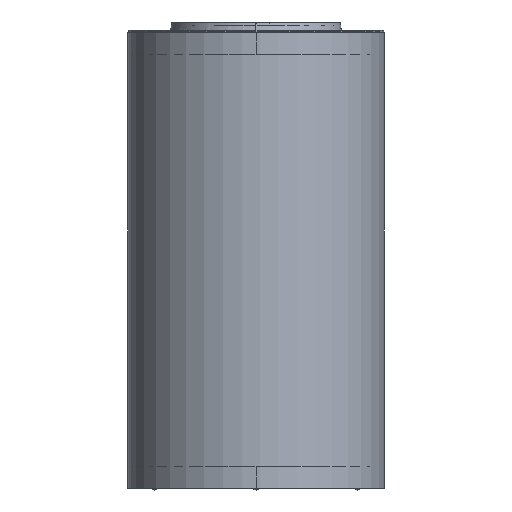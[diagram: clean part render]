
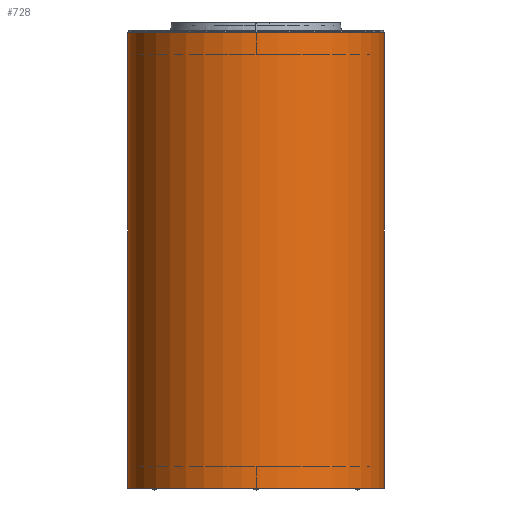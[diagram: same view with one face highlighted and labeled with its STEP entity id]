
A CAD part, front view. The second image highlights one B-rep face of the part: STEP entity #728.
In plain terms, the highlighted free-form (B-spline) face has degree [2, 1] with [5, 2] control points.
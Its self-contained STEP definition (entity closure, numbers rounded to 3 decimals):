
#728=ADVANCED_FACE('',(#1258),#8164,.T.);
#1258=FACE_OUTER_BOUND('',#1894,.T.);
#1894=EDGE_LOOP('',(#3939,#3940,#3941,#3942));
#3939=ORIENTED_EDGE('',*,*,#5430,.T.);
#3940=ORIENTED_EDGE('',*,*,#5432,.T.);
#3941=ORIENTED_EDGE('',*,*,#5424,.F.);
#3942=ORIENTED_EDGE('',*,*,#5431,.F.);
#5424=EDGE_CURVE('',#7573,#7574,#5935,.T.);
#5430=EDGE_CURVE('',#7577,#7578,#6829,.T.);
#5431=EDGE_CURVE('',#7577,#7573,#6830,.T.);
#5432=EDGE_CURVE('',#7578,#7574,#6831,.T.);
#5935=B_SPLINE_CURVE_WITH_KNOTS('',1,(#27297,#27298),.UNSPECIFIED.,.F.,
 .F.,(2,2),(0.,840.),.UNSPECIFIED.);
#6829=(
BOUNDED_CURVE()
B_SPLINE_CURVE(1,(#27379,#27380),.UNSPECIFIED.,.F.,.F.)
B_SPLINE_CURVE_WITH_KNOTS((2,2),(0.,840.),.UNSPECIFIED.)
CURVE()
GEOMETRIC_REPRESENTATION_ITEM()
RATIONAL_B_SPLINE_CURVE((1.,1.))
REPRESENTATION_ITEM('')
);
#6830=(
BOUNDED_CURVE()
B_SPLINE_CURVE(2,(#27381,#27382,#27383,#27384,#27385),.UNSPECIFIED.,.F.,
 .F.)
B_SPLINE_CURVE_WITH_KNOTS((3,2,3),(-684.867,-342.434,
0.),.UNSPECIFIED.)
CURVE()
GEOMETRIC_REPRESENTATION_ITEM()
RATIONAL_B_SPLINE_CURVE((1.,0.707,1.,0.707,1.))
REPRESENTATION_ITEM('')
);
#6831=(
BOUNDED_CURVE()
B_SPLINE_CURVE(2,(#27386,#27387,#27388,#27389,#27390),.UNSPECIFIED.,.F.,
 .F.)
B_SPLINE_CURVE_WITH_KNOTS((3,2,3),(-684.867,-342.434,
0.),.UNSPECIFIED.)
CURVE()
GEOMETRIC_REPRESENTATION_ITEM()
RATIONAL_B_SPLINE_CURVE((1.,0.707,1.,0.707,1.))
REPRESENTATION_ITEM('')
);
#7573=VERTEX_POINT('',#27205);
#7574=VERTEX_POINT('',#27206);
#7577=VERTEX_POINT('',#27209);
#7578=VERTEX_POINT('',#27210);
#8164=(
BOUNDED_SURFACE()
B_SPLINE_SURFACE(2,1,((#26877,#26878),(#26879,#26880),(#26881,#26882),(#26883,
#26884),(#26885,#26886)),.UNSPECIFIED.,.F.,.F.,.F.)
B_SPLINE_SURFACE_WITH_KNOTS((3,2,3),(2,2),(0.,342.434,684.867),
(0.,840.),.UNSPECIFIED.)
GEOMETRIC_REPRESENTATION_ITEM()
RATIONAL_B_SPLINE_SURFACE(((1.,1.),(0.707,0.707),
(1.,1.),(0.707,0.707),(1.,1.)))
REPRESENTATION_ITEM('')
SURFACE()
);
#26877=CARTESIAN_POINT('',(-236.,0.,0.));
#26878=CARTESIAN_POINT('',(-236.,0.,840.));
#26879=CARTESIAN_POINT('',(-236.,-236.,0.));
#26880=CARTESIAN_POINT('',(-236.,-236.,840.));
#26881=CARTESIAN_POINT('',(0.,-236.,0.));
#26882=CARTESIAN_POINT('',(0.,-236.,840.));
#26883=CARTESIAN_POINT('',(236.,-236.,0.));
#26884=CARTESIAN_POINT('',(236.,-236.,840.));
#26885=CARTESIAN_POINT('',(236.,0.,0.));
#26886=CARTESIAN_POINT('',(236.,0.,840.));
#27205=CARTESIAN_POINT('',(-236.,0.,0.));
#27206=CARTESIAN_POINT('',(-236.,0.,840.));
#27209=CARTESIAN_POINT('',(236.,0.,0.));
#27210=CARTESIAN_POINT('',(236.,0.,840.));
#27297=CARTESIAN_POINT('',(-236.,0.,0.));
#27298=CARTESIAN_POINT('',(-236.,0.,840.));
#27379=CARTESIAN_POINT('',(236.,0.,0.));
#27380=CARTESIAN_POINT('',(236.,0.,840.));
#27381=CARTESIAN_POINT('',(236.,0.,0.));
#27382=CARTESIAN_POINT('',(236.,-236.,0.));
#27383=CARTESIAN_POINT('',(0.,-236.,0.));
#27384=CARTESIAN_POINT('',(-236.,-236.,0.));
#27385=CARTESIAN_POINT('',(-236.,0.,0.));
#27386=CARTESIAN_POINT('',(236.,0.,840.));
#27387=CARTESIAN_POINT('',(236.,-236.,840.));
#27388=CARTESIAN_POINT('',(0.,-236.,840.));
#27389=CARTESIAN_POINT('',(-236.,-236.,840.));
#27390=CARTESIAN_POINT('',(-236.,0.,840.));
